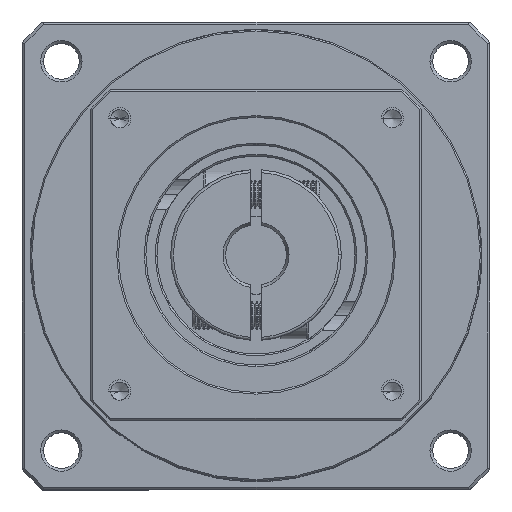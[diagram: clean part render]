
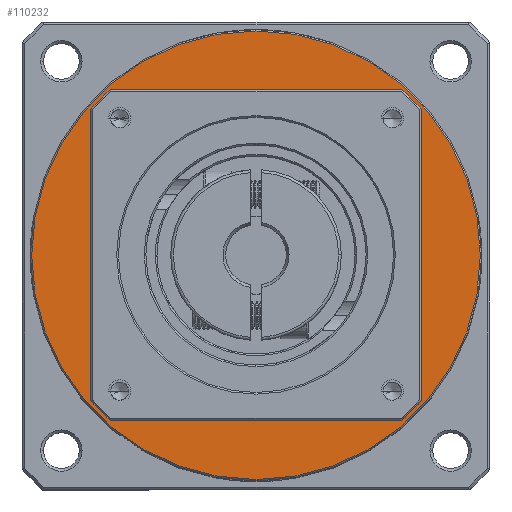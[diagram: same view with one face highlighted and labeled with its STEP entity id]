
A CAD part, top view. The second image highlights one B-rep face of the part: STEP entity #110232.
In plain terms, the highlighted planar face has unit normal (0, 0, 1).
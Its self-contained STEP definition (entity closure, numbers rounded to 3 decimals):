
#1432 = AXIS2_PLACEMENT_3D ( 'NONE', #88123, #19443, #48543 ) ;
#5556 = ORIENTED_EDGE ( 'NONE', *, *, #119583, .F. ) ;
#6742 = CIRCLE ( 'NONE', #105843, 40.75 ) ;
#7007 = CARTESIAN_POINT ( 'NONE',  ( -76.645, 42.538, -56.391 ) ) ;
#8481 = DIRECTION ( 'NONE',  ( 1., 0., 0. ) ) ;
#8668 = VERTEX_POINT ( 'NONE', #11074 ) ;
#8728 = CIRCLE ( 'NONE', #1432, 40.75 ) ;
#11074 = CARTESIAN_POINT ( 'NONE',  ( -106.645, 42.538, -56.391 ) ) ;
#19443 = DIRECTION ( 'NONE',  ( 0., 0., 1. ) ) ;
#20612 = CARTESIAN_POINT ( 'NONE',  ( -76.645, 42.538, -56.391 ) ) ;
#21238 = CIRCLE ( 'NONE', #42963, 30. ) ;
#26771 = DIRECTION ( 'NONE',  ( 0., 0., 1. ) ) ;
#30898 = DIRECTION ( 'NONE',  ( 1., 0., 0. ) ) ;
#34744 = EDGE_CURVE ( 'NONE', #97264, #75770, #6742, .T. ) ;
#42963 = AXIS2_PLACEMENT_3D ( 'NONE', #20612, #126499, #30898 ) ;
#45479 = AXIS2_PLACEMENT_3D ( 'NONE', #7007, #121374, #84217 ) ;
#46045 = FACE_OUTER_BOUND ( 'NONE', #69806, .T. ) ;
#48543 = DIRECTION ( 'NONE',  ( 1., 0., 0. ) ) ;
#49842 = CARTESIAN_POINT ( 'NONE',  ( -117.395, 42.538, -56.391 ) ) ;
#51273 = EDGE_LOOP ( 'NONE', ( #5556, #59321 ) ) ;
#51927 = EDGE_CURVE ( 'NONE', #75770, #97264, #8728, .T. ) ;
#59321 = ORIENTED_EDGE ( 'NONE', *, *, #95643, .F. ) ;
#65353 = CARTESIAN_POINT ( 'NONE',  ( -46.645, 42.538, -56.391 ) ) ;
#69806 = EDGE_LOOP ( 'NONE', ( #81163, #70503 ) ) ;
#70503 = ORIENTED_EDGE ( 'NONE', *, *, #34744, .T. ) ;
#75770 = VERTEX_POINT ( 'NONE', #49842 ) ;
#81163 = ORIENTED_EDGE ( 'NONE', *, *, #51927, .T. ) ;
#84217 = DIRECTION ( 'NONE',  ( 1., 0., 0. ) ) ;
#88123 = CARTESIAN_POINT ( 'NONE',  ( -76.645, 42.538, -56.391 ) ) ;
#95643 = EDGE_CURVE ( 'NONE', #120469, #8668, #121219, .T. ) ;
#96336 = FACE_BOUND ( 'NONE', #51273, .T. ) ;
#96423 = DIRECTION ( 'NONE',  ( 0., 0., 1. ) ) ;
#97264 = VERTEX_POINT ( 'NONE', #110413 ) ;
#104107 = PLANE ( 'NONE',  #110250 ) ;
#105843 = AXIS2_PLACEMENT_3D ( 'NONE', #115646, #96423, #8481 ) ;
#110232 = ADVANCED_FACE ( 'NONE', ( #96336, #46045 ), #104107, .T. ) ;
#110250 = AXIS2_PLACEMENT_3D ( 'NONE', #123279, #26771, #124542 ) ;
#110413 = CARTESIAN_POINT ( 'NONE',  ( -35.895, 42.538, -56.391 ) ) ;
#115646 = CARTESIAN_POINT ( 'NONE',  ( -76.645, 42.538, -56.391 ) ) ;
#119583 = EDGE_CURVE ( 'NONE', #8668, #120469, #21238, .T. ) ;
#120469 = VERTEX_POINT ( 'NONE', #65353 ) ;
#121219 = CIRCLE ( 'NONE', #45479, 30. ) ;
#121374 = DIRECTION ( 'NONE',  ( 0., 0., 1. ) ) ;
#123279 = CARTESIAN_POINT ( 'NONE',  ( -76.645, 42.538, -56.391 ) ) ;
#124542 = DIRECTION ( 'NONE',  ( 1., 0., 0. ) ) ;
#126499 = DIRECTION ( 'NONE',  ( 0., 0., 1. ) ) ;
